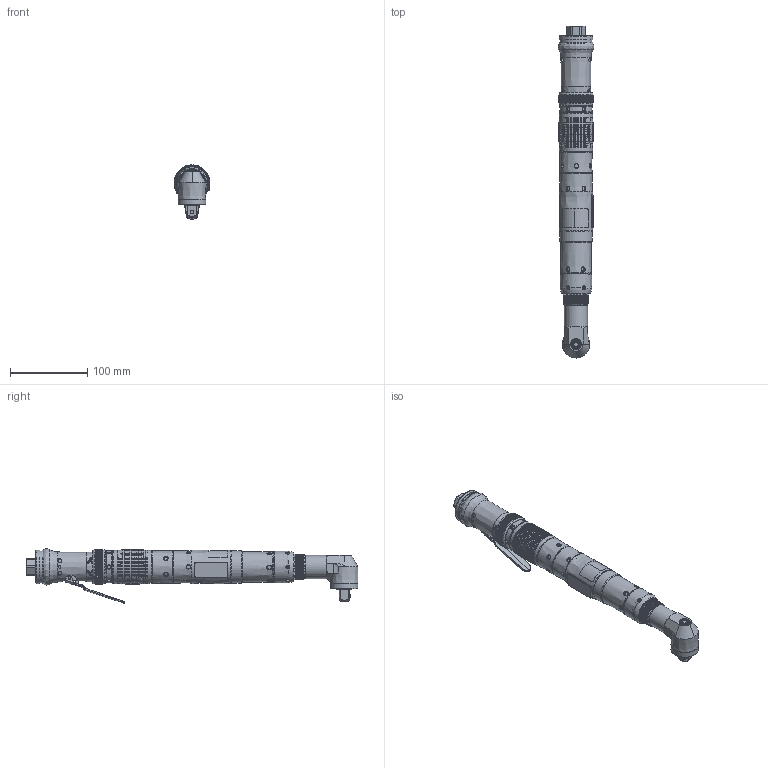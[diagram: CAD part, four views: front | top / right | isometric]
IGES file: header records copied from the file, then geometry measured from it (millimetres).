
Global section: file name: T:\siji\siji2\QA6 angle stall\45498326\45498326.igs; native system: Unigraphics Version X V2.0; preprocessor: Unigraphics NX IGES V2.0; date: 20070515.113857; units: inch
Bounding box: 46.21 x 429.34 x 70.45 mm (x, y, z)
Surface area: 84759 mm2 (no closed solid volume)
Topology: 0 solids, 0 shells, 1102 faces, 14173 edges, 13990 vertices
Faces by surface type: revolution 563, extrusion 506, bspline 31, offset 2
